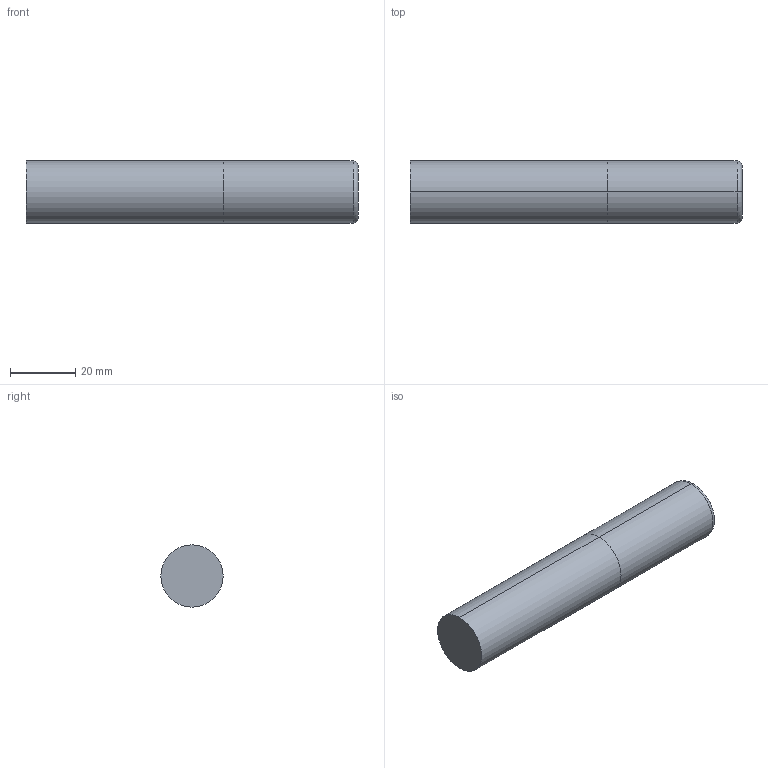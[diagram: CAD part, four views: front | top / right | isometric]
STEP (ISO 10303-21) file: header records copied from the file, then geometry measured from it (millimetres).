
FILE_DESCRIPTION (( 'STEP AP214' ), '1' );
FILE_NAME ('SSIC70750-060.STEP', '2025-05-29T20:49:03', ( '' ), ( '' ), 'SwSTEP 2.0', 'SolidWorks 2023', '' );
FILE_SCHEMA (( 'AUTOMOTIVE_DESIGN' ));
Length unit declared in the file: inch
Products named in the file (3): SSI7 Shank Only_SSIC70750-060; SSI7 Cut Only_SSIC70750-060; SSIC70750-060
Assembly tree (2 placements, depth 2):
  SSIC70750-060
    SSI7 Cut Only_SSIC70750-060
    SSI7 Shank Only_SSIC70750-060
Bounding box: 101.6 x 19.05 x 19.05 mm (x, y, z)
Volume: 28929.6 mm3; surface area: 7180.4 mm2
Topology: 2 solids, 2 shells, 10 faces, 16 edges, 10 vertices
Faces by surface type: cylinder 4, plane 4, torus 2
Entity records: 334 total; most frequent: DIRECTION 58, CARTESIAN_POINT 41, ORIENTED_EDGE 32, AXIS2_PLACEMENT_3D 27, EDGE_CURVE 16, CIRCLE 12, FACE_OUTER_BOUND 10, VERTEX_POINT 10
